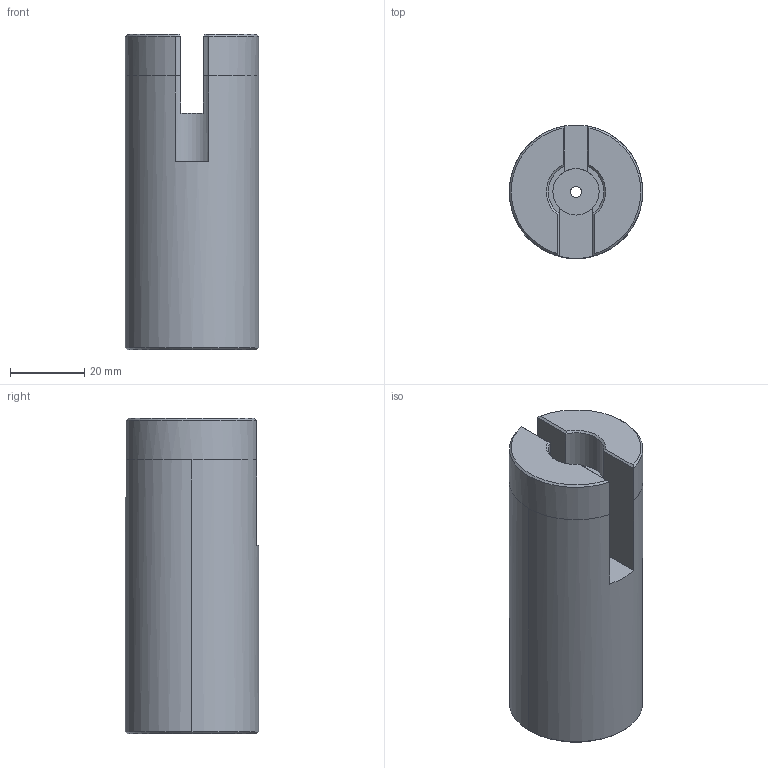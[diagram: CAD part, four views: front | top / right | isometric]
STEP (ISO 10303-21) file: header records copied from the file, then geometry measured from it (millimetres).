
FILE_DESCRIPTION(('CATIA V5 STEP Exchange'),'2;1');
FILE_NAME('C:\Users\hh\Desktop\阀体涂润滑脂治具\AGZ111 轻卡悬浮阀体（旧）治具\pdf+stp\AGZ111.01_V1.stp','2024-10-31T06:32:26+00:00',('none'),('none'),'CATIA Version 5 Release 21 GA (IN-10)','CATIA V5 STEP AP214','none');
FILE_SCHEMA(('AUTOMOTIVE_DESIGN { 1 0 10303 214 1 1 1 1 }'));
Length unit declared in the file: millimetre
Products named in the file (1): AGZ111.01_V1
Bounding box: 36 x 36 x 85 mm (x, y, z)
Volume: 70427.6 mm3; surface area: 14824.3 mm2
Topology: 1 solids, 1 shells, 35 faces, 86 edges, 54 vertices
Faces by surface type: plane 17, cylinder 12, cone 6
Entity records: 997 total; most frequent: CARTESIAN_POINT 189, ORIENTED_EDGE 172, DIRECTION 134, EDGE_CURVE 86, AXIS2_PLACEMENT_3D 65, VERTEX_POINT 54, VECTOR 42, LINE 42
